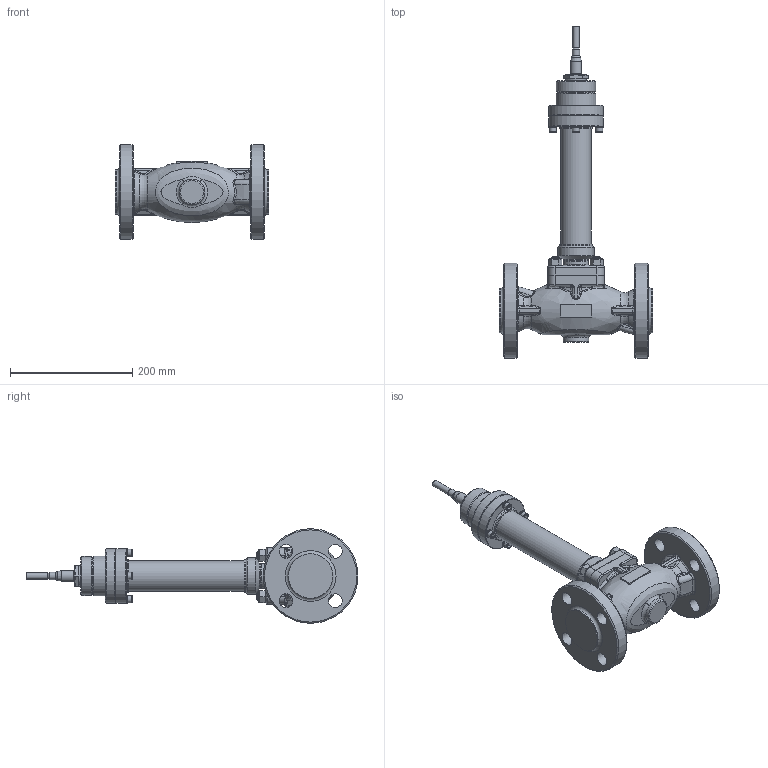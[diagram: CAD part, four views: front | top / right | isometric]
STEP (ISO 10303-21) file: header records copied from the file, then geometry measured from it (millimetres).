
FILE_DESCRIPTION(/* description */ (''),/* implementation_level */ '2;1');
FILE_NAME(/* name */ 'CV3xx_NPS_1_1_2_priruba_CL600_vlnovec.stp',/* time_stamp */ '2015-08-11T10:09:44+02:00',/* author */ (''),/* organization */ (''),/* preprocessor_version */ 'ST-DEVELOPER v15',/* originating_system */ 'SIEMENS PLM Software NX 8.5',/* authorisation */ '');
FILE_SCHEMA (('AP203_CONFIGURATION_CONTROLLED_3D_DESIGN_OF_MECHANICAL_PARTS_AND_ASSEMBLIES_MIM_LF { 1 0 10303 403 2 1 2}'));
Length unit declared in the file: millimetre
Products named in the file (1): adam1354300Cul8x
Bounding box: 251 x 543.5 x 155 mm (x, y, z)
Volume: 2976626.6 mm3; surface area: 265161.3 mm2
Topology: 1 solids, 1 shells, 601 faces, 1392 edges, 826 vertices
Faces by surface type: plane 172, cylinder 148, bspline 102, cone 91, torus 64, sphere 24
Full cylindrical faces by diameter (mm): 7 x4, 7.76 x4, 9 x4, 10 x1, 11.64 x4, 12 x9, 14 x4, 18 x1, 19 x8, 22.3 x8, 27 x1, 33 x1, 41 x1, 42 x2, 50 x1, 50.3 x2, 55 x2, 58 x1, 60 x1, 61.6 x1, 64 x1, 65 x1, 73 x2, 76 x1, 90 x2, 155 x2
Entity records: 18296 total; most frequent: CARTESIAN_POINT 6070, DIRECTION 2491, ORIENTED_EDGE 2396, EDGE_CURVE 1198, AXIS2_PLACEMENT_3D 1102, EDGE_LOOP 800, VERTEX_POINT 758, ADVANCED_FACE 601
